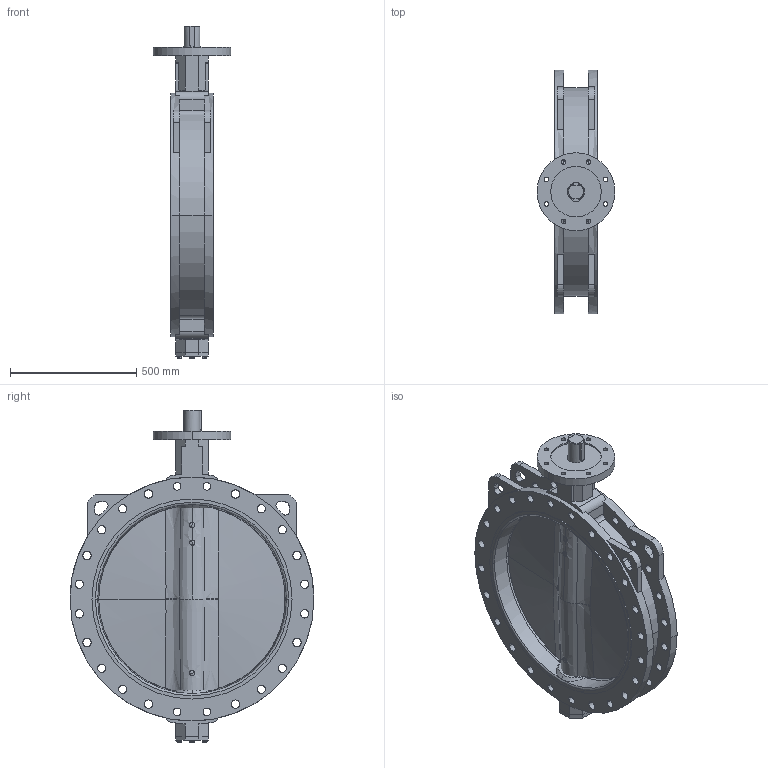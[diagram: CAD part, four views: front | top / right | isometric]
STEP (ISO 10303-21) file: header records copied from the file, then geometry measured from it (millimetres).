
FILE_DESCRIPTION(('Open CASCADE Model'),'2;1');
FILE_NAME('Open CASCADE Shape Model','2022-03-10T15:41:44',('Author'),( 'Open CASCADE'),'Open CASCADE STEP processor 7.3','Open CASCADE 7.3' ,'Unknown');
FILE_SCHEMA(('AUTOMOTIVE_DESIGN { 1 0 10303 214 1 1 1 1 }'));
Length unit declared in the file: millimetre
Products named in the file (15): Open CASCADE STEP translator 7.3 1; Open CASCADE STEP translator 7.3 1.1; Open CASCADE STEP translator 7.3 1.2; Open CASCADE STEP translator 7.3 1.3; Open CASCADE STEP translator 7.3 1.4; Open CASCADE STEP translator 7.3 1.5; Open CASCADE STEP translator 7.3 1.6; Open CASCADE STEP translator 7.3 1.7; Open CASCADE STEP translator 7.3 1.8; Open CASCADE STEP translator 7.3 1.9; Open CASCADE STEP translator 7.3 1.10; Open CASCADE STEP translator 7.3 1.11; Open CASCADE STEP translator 7.3 1.12; Open CASCADE STEP translator 7.3 1.13; Open CASCADE STEP translator 7.3 1.14
Assembly tree (14 placements, depth 2):
  Open CASCADE STEP translator 7.3 1
    Open CASCADE STEP translator 7.3 1.1
    Open CASCADE STEP translator 7.3 1.2
    Open CASCADE STEP translator 7.3 1.3
    Open CASCADE STEP translator 7.3 1.4
    Open CASCADE STEP translator 7.3 1.5
    Open CASCADE STEP translator 7.3 1.6
    Open CASCADE STEP translator 7.3 1.7
    Open CASCADE STEP translator 7.3 1.8
    Open CASCADE STEP translator 7.3 1.9
    Open CASCADE STEP translator 7.3 1.10
    Open CASCADE STEP translator 7.3 1.11
    Open CASCADE STEP translator 7.3 1.12
    Open CASCADE STEP translator 7.3 1.13
    Open CASCADE STEP translator 7.3 1.14
Bounding box: 308 x 965 x 1313.68 mm (x, y, z)
Volume: 58836280.9 mm3; surface area: 4728808 mm2
Topology: 14 solids, 14 shells, 662 faces, 1695 edges, 1097 vertices
Faces by surface type: cylinder 298, plane 208, cone 84, torus 30, bspline 30, sphere 12
Entity records: 66400 total; most frequent: CARTESIAN_POINT 32931, DIRECTION 6092, ORIENTED_EDGE 3390, PCURVE 3390, DEFINITIONAL_REPRESENTATION 3390, LINE 2786, VECTOR 2786, EDGE_CURVE 1695
